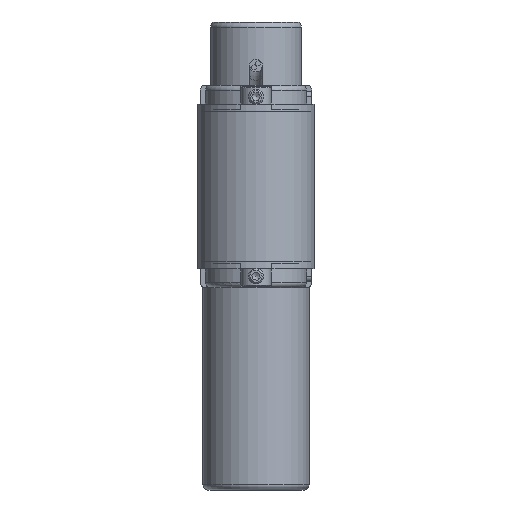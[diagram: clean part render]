
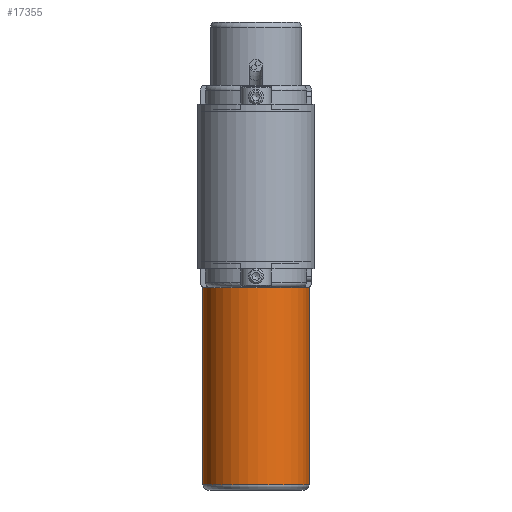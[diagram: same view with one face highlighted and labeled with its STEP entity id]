
A CAD part, front view. The second image highlights one B-rep face of the part: STEP entity #17355.
In plain terms, the highlighted cylindrical face has radius 21 mm (diameter 42 mm), a full revolution.
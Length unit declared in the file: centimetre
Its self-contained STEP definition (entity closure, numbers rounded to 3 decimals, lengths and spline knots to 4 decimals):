
#1939=FACE_OUTER_BOUND('',#2961,.T.);
#2961=EDGE_LOOP('',(#15259,#15260,#15261,#15262,#15263,#15264,#15265,#15266));
#4241=LINE('',#30115,#5518);
#5518=VECTOR('',#23813,2.1);
#6377=CIRCLE('',#19107,2.1);
#6378=CIRCLE('',#19108,2.1);
#6379=CIRCLE('',#19109,2.1);
#6382=CIRCLE('',#19114,2.1);
#6383=CIRCLE('',#19115,2.1);
#6384=CIRCLE('',#19116,2.1);
#8032=VERTEX_POINT('',#30096);
#8033=VERTEX_POINT('',#30098);
#8034=VERTEX_POINT('',#30100);
#8037=VERTEX_POINT('',#30110);
#8038=VERTEX_POINT('',#30111);
#8039=VERTEX_POINT('',#30113);
#10441=EDGE_CURVE('',#8033,#8032,#6377,.T.);
#10442=EDGE_CURVE('',#8034,#8033,#6378,.T.);
#10443=EDGE_CURVE('',#8032,#8034,#6379,.T.);
#10447=EDGE_CURVE('',#8037,#8038,#6382,.T.);
#10448=EDGE_CURVE('',#8039,#8037,#6383,.T.);
#10449=EDGE_CURVE('',#8039,#8033,#4241,.T.);
#10450=EDGE_CURVE('',#8038,#8039,#6384,.T.);
#15259=ORIENTED_EDGE('',*,*,#10447,.F.);
#15260=ORIENTED_EDGE('',*,*,#10448,.F.);
#15261=ORIENTED_EDGE('',*,*,#10449,.T.);
#15262=ORIENTED_EDGE('',*,*,#10441,.T.);
#15263=ORIENTED_EDGE('',*,*,#10443,.T.);
#15264=ORIENTED_EDGE('',*,*,#10442,.T.);
#15265=ORIENTED_EDGE('',*,*,#10449,.F.);
#15266=ORIENTED_EDGE('',*,*,#10450,.F.);
#15560=CYLINDRICAL_SURFACE('',#19113,2.1);
#17355=ADVANCED_FACE('',(#1939),#15560,.T.);
#19107=AXIS2_PLACEMENT_3D('',#30099,#23794,#23795);
#19108=AXIS2_PLACEMENT_3D('',#30101,#23796,#23797);
#19109=AXIS2_PLACEMENT_3D('',#30102,#23798,#23799);
#19113=AXIS2_PLACEMENT_3D('',#30109,#23807,#23808);
#19114=AXIS2_PLACEMENT_3D('',#30112,#23809,#23810);
#19115=AXIS2_PLACEMENT_3D('',#30114,#23811,#23812);
#19116=AXIS2_PLACEMENT_3D('',#30116,#23814,#23815);
#23794=DIRECTION('center_axis',(0.,0.,
-1.));
#23795=DIRECTION('ref_axis',(-0.667,0.745,0.));
#23796=DIRECTION('center_axis',(0.,0.,
-1.));
#23797=DIRECTION('ref_axis',(-0.667,0.745,0.));
#23798=DIRECTION('center_axis',(0.,0.,
-1.));
#23799=DIRECTION('ref_axis',(-0.667,0.745,0.));
#23807=DIRECTION('center_axis',(0.,0.,
-1.));
#23808=DIRECTION('ref_axis',(-0.667,0.745,0.));
#23809=DIRECTION('center_axis',(0.,0.,
-1.));
#23810=DIRECTION('ref_axis',(-0.667,0.745,0.));
#23811=DIRECTION('center_axis',(0.,0.,
-1.));
#23812=DIRECTION('ref_axis',(-0.667,0.745,0.));
#23813=DIRECTION('',(0.,0.,1.));
#23814=DIRECTION('center_axis',(0.,0.,
-1.));
#23815=DIRECTION('ref_axis',(-0.667,0.745,0.));
#30096=CARTESIAN_POINT('',(-1.5649,5.4896,-4.));
#30098=CARTESIAN_POINT('',(1.4004,5.3251,-4.));
#30099=CARTESIAN_POINT('Origin',(0.,6.89,-4.));
#30100=CARTESIAN_POINT('',(-1.4004,8.4549,-4.));
#30101=CARTESIAN_POINT('Origin',(0.,6.89,-4.));
#30102=CARTESIAN_POINT('Origin',(0.,6.89,-4.));
#30109=CARTESIAN_POINT('Origin',(0.,6.89,-7.55));
#30110=CARTESIAN_POINT('',(-1.4004,8.4549,-11.8));
#30111=CARTESIAN_POINT('',(1.5649,8.2904,-11.8));
#30112=CARTESIAN_POINT('Origin',(0.,6.89,-11.8));
#30113=CARTESIAN_POINT('',(1.4004,5.3251,-11.8));
#30114=CARTESIAN_POINT('Origin',(0.,6.89,-11.8));
#30115=CARTESIAN_POINT('',(1.4004,5.3251,-7.55));
#30116=CARTESIAN_POINT('Origin',(0.,6.89,-11.8));
